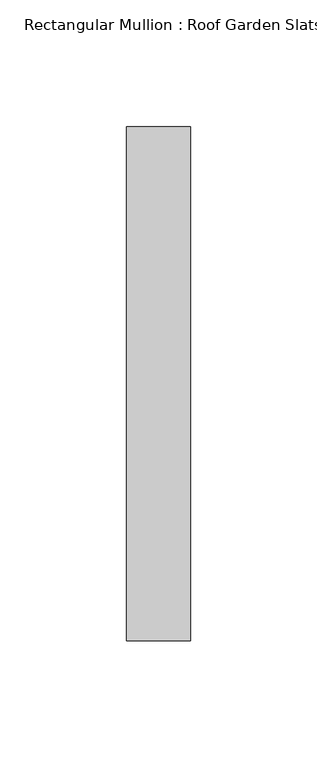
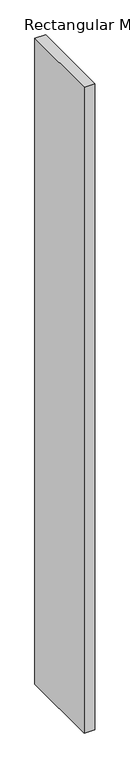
"""IFC4 building model written with IfcOpenShell, lengths in millimetres: member geometry, Rectangular Mullion : Roof Garden Slats."""

import ifcopenshell
import ifcopenshell.guid

model = None  # the IFC model being written
_history = None  # IfcOwnerHistory: only IFC2X3 demands one
_inside = {}  # id of a spatial element -> (the spatial element, [elements in it])
_under = {}  # id of a project, library or spatial element -> (it, [spatial elements below it])
_declared = {}  # id of a project -> (the project, [libraries it declares])
_typed = {}  # id of a type object -> (the type object, [elements of that type])
_made_of = {}  # id of a material, layer set ... -> (it, [elements and type objects made of it])


def new_model(schema):
    """Start an empty IFC model of exactly this schema.

    Asked for "IFC4X3", IfcOpenShell would pick the latest addendum, in which some entities
    have other attributes; the version numbers below select the first issue.
    IFC2X3 requires an IfcOwnerHistory on every rooted entity: one is made here for all.
    """
    global model, _history
    if schema == "IFC4X3":
        model = ifcopenshell.file(schema_version=(4, 3, 0, 0))
    else:
        model = ifcopenshell.file(schema=schema)
    _inside.clear()
    _under.clear()
    _declared.clear()
    _typed.clear()
    _made_of.clear()
    _history = None
    if model.schema == "IFC2X3":
        org = make("IfcOrganization", Name="unknown")
        user = make(
            "IfcPersonAndOrganization",
            ThePerson=make("IfcPerson", FamilyName="unknown"),
            TheOrganization=org,
        )
        app = make(
            "IfcApplication",
            ApplicationDeveloper=org,
            Version="unknown",
            ApplicationFullName="unknown",
            ApplicationIdentifier="unknown",
        )
        _history = make(
            "IfcOwnerHistory",
            OwningUser=user,
            OwningApplication=app,
            ChangeAction="ADDED",
            CreationDate=0,
        )
    return model


def make(cls, **values):
    """One entity of the class cls with the attributes given. An attribute that is None is left unset."""
    return model.create_entity(
        cls, **{name: value for name, value in values.items() if value is not None}
    )


def rooted(cls, **values):
    """An entity with a GlobalId (a new one), such as an element, a storey or a relation."""
    return make(cls, GlobalId=ifcopenshell.guid.new(), OwnerHistory=_history, **values)


def si_unit(unit_type, name, prefix=None):
    """IfcSIUnit, for example si_unit("LENGTHUNIT", "METRE", prefix="MILLI")."""
    return make("IfcSIUnit", UnitType=unit_type, Prefix=prefix, Name=name)


def assignment(units):
    """IfcUnitAssignment: the units of a project."""
    return None if units is None else make("IfcUnitAssignment", Units=units)


def point(xyz):
    """IfcCartesianPoint."""
    return None if xyz is None else make("IfcCartesianPoint", Coordinates=xyz)


def direction(xyz):
    """IfcDirection."""
    return None if xyz is None else make("IfcDirection", DirectionRatios=xyz)


def frame(location, z_axis=None, x_axis=None):
    """IfcAxis2Placement3D, a coordinate frame: its origin and axes. An axis left out is left unset."""
    return make(
        "IfcAxis2Placement3D",
        Location=point(location),
        Axis=direction(z_axis),
        RefDirection=direction(x_axis),
    )


def origin():
    """The frame at (0, 0, 0) with its axes left unset."""
    return frame((0.0, 0.0, 0.0))


def place(relative_to, where):
    """IfcLocalPlacement: puts the frame where relative to a parent placement (None: the world)."""
    return make(
        "IfcLocalPlacement", PlacementRelTo=relative_to, RelativePlacement=where
    )


def context(
    kind, dimensions, precision=None, world=None, true_north=None, identifier=None
):
    """IfcGeometricRepresentationContext, for example the 3D "Model" context."""
    return make(
        "IfcGeometricRepresentationContext",
        ContextIdentifier=identifier,
        ContextType=kind,
        CoordinateSpaceDimension=dimensions,
        Precision=precision,
        WorldCoordinateSystem=world,
        TrueNorth=true_north,
    )


def project(units=None, contexts=None):
    """IfcProject with its units and contexts."""
    return rooted(
        "IfcProject",
        Name="project",
        RepresentationContexts=contexts,
        UnitsInContext=assignment(units),
    )


def spatial(cls, under=None, at=None, **own):
    """A site, building, storey or space (cls), placed at a placement, below another one or the project."""
    s = rooted(cls, ObjectPlacement=at, **own)
    if under is not None:
        _under.setdefault(under.id(), (under, []))[1].append(s)
    return s


def polyline(points):
    """IfcPolyline through the points."""
    return make("IfcPolyline", Points=[point(p) for p in points])


def outline(outer, holes=None, kind="AREA"):
    """IfcArbitraryClosedProfileDef: a profile drawn as a closed curve; with holes, ...WithVoids."""
    if holes is None:
        return make("IfcArbitraryClosedProfileDef", ProfileType=kind, OuterCurve=outer)
    return make(
        "IfcArbitraryProfileDefWithVoids",
        ProfileType=kind,
        OuterCurve=outer,
        InnerCurves=holes,
    )


def extrude(swept, where, along, depth):
    """IfcExtrudedAreaSolid: the profile swept, set in the frame where, extruded along a direction by depth."""
    return make(
        "IfcExtrudedAreaSolid",
        SweptArea=swept,
        Position=where,
        ExtrudedDirection=direction(along),
        Depth=depth,
    )


def shape(context_of_items, identifier, shape_type, items):
    """IfcShapeRepresentation: the items that make up one representation, for example the "Body"."""
    return make(
        "IfcShapeRepresentation",
        ContextOfItems=context_of_items,
        RepresentationIdentifier=identifier,
        RepresentationType=shape_type,
        Items=items,
    )


def source(mapping_origin, context_of_items, identifier, shape_type, items):
    """IfcRepresentationMap: a shape defined once, which mapped items show again and again."""
    return make(
        "IfcRepresentationMap",
        MappingOrigin=mapping_origin,
        MappedRepresentation=shape(context_of_items, identifier, shape_type, items),
    )


def transform(
    local_origin,
    x_axis=None,
    y_axis=None,
    z_axis=None,
    scale=None,
    scale2=None,
    scale3=None,
    uniform=True,
):
    """IfcCartesianTransformationOperator3D, or its non-uniform kind. x_axis, y_axis, z_axis: its Axis1, 2, 3."""
    if uniform:
        return make(
            "IfcCartesianTransformationOperator3D",
            Axis1=direction(x_axis),
            Axis2=direction(y_axis),
            LocalOrigin=point(local_origin),
            Scale=scale,
            Axis3=direction(z_axis),
        )
    return make(
        "IfcCartesianTransformationOperator3DnonUniform",
        Axis1=direction(x_axis),
        Axis2=direction(y_axis),
        LocalOrigin=point(local_origin),
        Scale=scale,
        Axis3=direction(z_axis),
        Scale2=scale2,
        Scale3=scale3,
    )


def mapped(mapping_source, mapping_target):
    """IfcMappedItem: shows the shape of a source again, moved by a transform."""
    return make(
        "IfcMappedItem", MappingSource=mapping_source, MappingTarget=mapping_target
    )


def made_of(thing, what):
    """Note that an element or type object is made of a material, layer set ...; save() writes the relation."""
    if what is not None:
        _made_of.setdefault(what.id(), (what, []))[1].append(thing)
    return thing


def element(
    cls,
    number,
    at=None,
    inside=None,
    cuts=None,
    type_object=None,
    material=None,
    context=None,
    identifier="Body",
    shape_type=None,
    held_by="IfcProductDefinitionShape",
    body=None,
    shapes=None,
    **own,
):
    """One element of the class cls, such as IfcWall. Its Tag is "e" and its number.

    at: its placement. inside: the storey or other place that contains it. cuts: it is an
    opening in that element (IfcRelVoidsElement). A single representation is given by context,
    identifier, shape_type and body (its items); several are given by shapes. held_by: the class
    of the entity that holds the representations. save() writes the other relations.
    """
    e = rooted(cls, Tag="e%d" % number, ObjectPlacement=at, **own)
    if body is not None:
        shapes = [shape(context, identifier, shape_type, body)]
    if shapes is not None:
        e.Representation = make(held_by, Representations=shapes)
    if inside is not None:
        _inside.setdefault(inside.id(), (inside, []))[1].append(e)
    if cuts is not None:
        rooted(
            "IfcRelVoidsElement", RelatingBuildingElement=cuts, RelatedOpeningElement=e
        )
    if type_object is not None:
        _typed.setdefault(type_object.id(), (type_object, []))[1].append(e)
    return made_of(e, material)


def aggregate(whole, parts):
    """IfcRelAggregates: a whole, such as a stair, and the parts it consists of."""
    return rooted("IfcRelAggregates", RelatingObject=whole, RelatedObjects=parts)


def save(model, path):
    """Write the relations noted so far, then the file.

    IfcRelAggregates (storeys below a building ...), IfcRelContainedInSpatialStructure (elements
    in a storey), IfcRelDefinesByType, IfcRelAssociatesMaterial and IfcRelDeclares: one each for
    every whole, place, type object, material and project.
    """
    for whole, parts in _under.values():
        aggregate(whole, parts)
    for where, things in _inside.values():
        rooted(
            "IfcRelContainedInSpatialStructure",
            RelatedElements=things,
            RelatingStructure=where,
        )
    for kind, things in _typed.values():
        rooted("IfcRelDefinesByType", RelatedObjects=things, RelatingType=kind)
    for what, things in _made_of.values():
        rooted("IfcRelAssociatesMaterial", RelatedObjects=things, RelatingMaterial=what)
    for by, libraries in _declared.values():
        rooted("IfcRelDeclares", RelatingContext=by, RelatedDefinitions=libraries)
    model.write(path)


def rectangular_mullion_roof_garden_slats_bce99927(model_context):
    return source(origin(), model_context, "Body", "SweptSolid", [
        extrude(outline(polyline([(0.0, 139.7), (0.0, -63.5), (-25.4, -63.5), (-25.4, 139.7), (0.0, 139.7)])), frame((0.0, 0.0, -1627.7067874), z_axis=(0.0, 0.0, 1.0), x_axis=(1.0, 0.0, 0.0)), (0.0, 0.0, 1.0), 1627.7067874),
    ])


if __name__ == "__main__":
    model = new_model("IFC4")
    model_context = context("Model", 3, world=origin())
    ifc_project = project(units=[si_unit("LENGTHUNIT", "METRE", prefix="MILLI")], contexts=[model_context])
    site = spatial("IfcSite", under=ifc_project)
    building = spatial("IfcBuilding", under=site)
    placement = place(None, origin())
    rectangular_mullion_roof_garden_slats_shape = rectangular_mullion_roof_garden_slats_bce99927(model_context)
    element("IfcMember", 1, ObjectType="Rectangular Mullion : Roof Garden Slats", at=placement, inside=building, context=model_context, shape_type="MappedRepresentation", body=[
        mapped(rectangular_mullion_roof_garden_slats_shape, transform((0.0, 0.0, 0.0), x_axis=(1.0, 0.0, 0.0), y_axis=(0.0, 1.0, 0.0), z_axis=(0.0, 0.0, 1.0))),
    ])
    save(model, "model.ifc")
